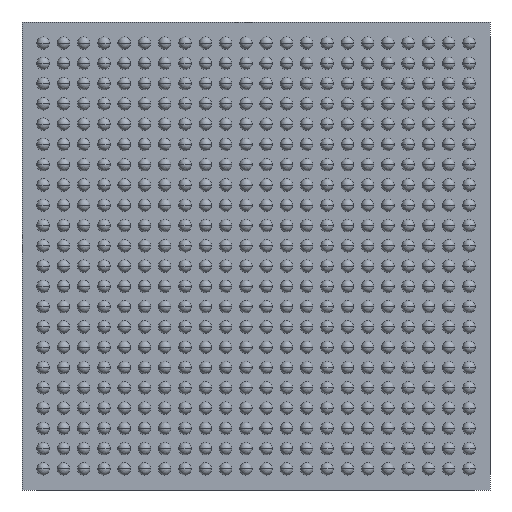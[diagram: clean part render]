
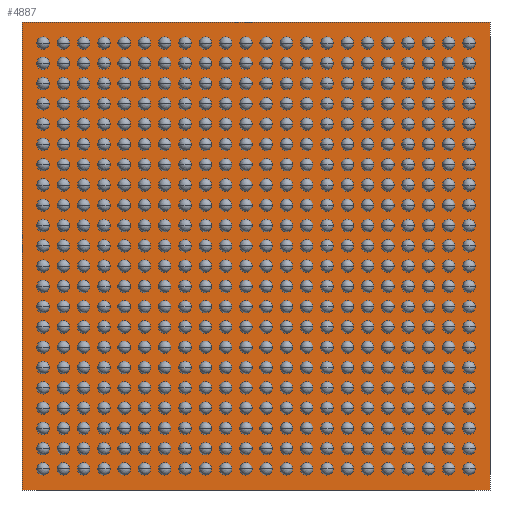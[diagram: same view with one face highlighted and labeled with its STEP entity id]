
A CAD part, front view. The second image highlights one B-rep face of the part: STEP entity #4887.
In plain terms, the highlighted planar face has unit normal (0, -1, 0).
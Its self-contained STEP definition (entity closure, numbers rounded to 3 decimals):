
#4772=DIRECTION('',(0.,0.,-1.));
#4773=VECTOR('',#4772,15.);
#4774=CARTESIAN_POINT('',(7.5,0.,7.5));
#4775=LINE('',#4774,#4773);
#4779=DIRECTION('',(-1.,0.,0.));
#4780=VECTOR('',#4779,15.);
#4781=CARTESIAN_POINT('',(7.5,0.,-7.5));
#4782=LINE('',#4781,#4780);
#4786=DIRECTION('',(0.,0.,1.));
#4787=VECTOR('',#4786,15.);
#4788=CARTESIAN_POINT('',(-7.5,0.,-7.5));
#4789=LINE('',#4788,#4787);
#4793=DIRECTION('',(1.,0.,0.));
#4794=VECTOR('',#4793,15.);
#4795=CARTESIAN_POINT('',(-7.5,0.,7.5));
#4796=LINE('',#4795,#4794);
#4856=CARTESIAN_POINT('',(7.5,0.,7.5));
#4857=CARTESIAN_POINT('',(7.5,0.,-7.5));
#4858=VERTEX_POINT('',#4856);
#4859=VERTEX_POINT('',#4857);
#4860=CARTESIAN_POINT('',(-7.5,0.,-7.5));
#4861=VERTEX_POINT('',#4860);
#4862=CARTESIAN_POINT('',(-7.5,0.,7.5));
#4863=VERTEX_POINT('',#4862);
#4872=CARTESIAN_POINT('',(0.,0.,0.));
#4873=DIRECTION('',(0.,1.,0.));
#4874=DIRECTION('',(1.,0.,0.));
#4875=AXIS2_PLACEMENT_3D('',#4872,#4873,#4874);
#4876=PLANE('',#4875);
#4878=ORIENTED_EDGE('',*,*,#4877,.T.);
#4880=ORIENTED_EDGE('',*,*,#4879,.T.);
#4882=ORIENTED_EDGE('',*,*,#4881,.T.);
#4884=ORIENTED_EDGE('',*,*,#4883,.T.);
#4885=EDGE_LOOP('',(#4878,#4880,#4882,#4884));
#4886=FACE_OUTER_BOUND('',#4885,.F.);
#4887=ADVANCED_FACE('',(#4886),#4876,.F.);
#4877=EDGE_CURVE('',#4858,#4859,#4775,.T.);
#4879=EDGE_CURVE('',#4859,#4861,#4782,.T.);
#4881=EDGE_CURVE('',#4861,#4863,#4789,.T.);
#4883=EDGE_CURVE('',#4863,#4858,#4796,.T.);
